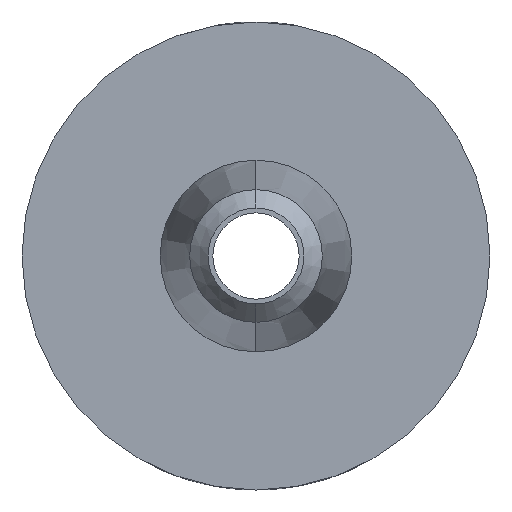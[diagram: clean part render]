
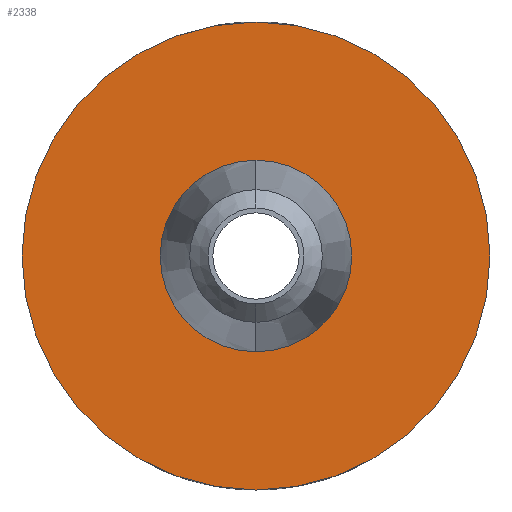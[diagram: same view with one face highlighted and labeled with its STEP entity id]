
A CAD part, left-side view. The second image highlights one B-rep face of the part: STEP entity #2338.
In plain terms, the highlighted planar face has unit normal (1, 0, 0).
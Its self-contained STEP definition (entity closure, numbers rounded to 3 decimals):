
#48=PLANE('',#2652);
#66=FACE_BOUND('',#283,.T.);
#123=CIRCLE('',#2653,3.175);
#124=CIRCLE('',#2654,1.3);
#193=FACE_OUTER_BOUND('',#282,.T.);
#282=EDGE_LOOP('',(#1911));
#283=EDGE_LOOP('',(#1912));
#1045=VERTEX_POINT('',#4528);
#1046=VERTEX_POINT('',#4530);
#1478=EDGE_CURVE('',#1045,#1045,#123,.T.);
#1479=EDGE_CURVE('',#1046,#1046,#124,.T.);
#1911=ORIENTED_EDGE('',*,*,#1478,.T.);
#1912=ORIENTED_EDGE('',*,*,#1479,.T.);
#2338=ADVANCED_FACE('',(#193,#66),#48,.T.);
#2652=AXIS2_PLACEMENT_3D('',#4527,#2896,#2897);
#2653=AXIS2_PLACEMENT_3D('',#4529,#2898,#2899);
#2654=AXIS2_PLACEMENT_3D('',#4531,#2900,#2901);
#2896=DIRECTION('center_axis',(1.,0.,0.));
#2897=DIRECTION('ref_axis',(0.,0.,-1.));
#2898=DIRECTION('center_axis',(1.,0.,0.));
#2899=DIRECTION('ref_axis',(0.,0.,-1.));
#2900=DIRECTION('center_axis',(-1.,0.,0.));
#2901=DIRECTION('ref_axis',(0.,0.,
-1.));
#4527=CARTESIAN_POINT('Origin',(-4.75,-3.213,0.));
#4528=CARTESIAN_POINT('',(-4.75,0.,3.175));
#4529=CARTESIAN_POINT('Origin',(-4.75,0.,0.));
#4530=CARTESIAN_POINT('',(-4.75,0.,1.3));
#4531=CARTESIAN_POINT('Origin',(-4.75,0.,0.));
